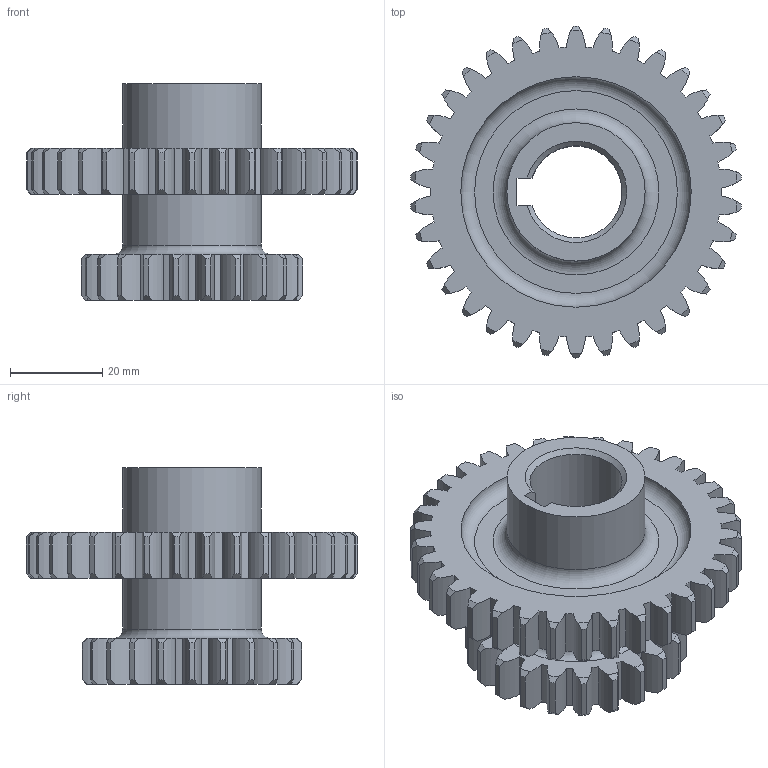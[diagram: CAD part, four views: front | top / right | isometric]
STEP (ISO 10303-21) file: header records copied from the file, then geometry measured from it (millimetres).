
FILE_DESCRIPTION(/* description */ (''),/* implementation_level */ '2;1');
FILE_NAME(/* name */ 'C:\Users\user\Desktop\381017E1004\381017E1004-스퍼기어.stp',/* time_stamp */ '2018-10-11T17:18:33+09:00',/* author */ ('user'),/* organization */ (''),/* preprocessor_version */ 'ST-DEVELOPER v16.1',/* originating_system */ 'Autodesk Inventor 2016',/* authorisation */ '');
FILE_SCHEMA (('AUTOMOTIVE_DESIGN { 1 0 10303 214 3 1 1 }'));
Length unit declared in the file: millimetre
Products named in the file (1): 123456789-스퍼기어
Bounding box: 71.79 x 72 x 47 mm (x, y, z)
Volume: 47767.7 mm3; surface area: 21421.9 mm2
Topology: 1 solids, 1 shells, 356 faces, 1050 edges, 705 vertices
Faces by surface type: cylinder 227, cone 114, plane 10, torus 5
Full cylindrical faces by diameter (mm): 30 x2
Entity records: 12396 total; most frequent: CARTESIAN_POINT 2782, DIRECTION 2105, ORIENTED_EDGE 2074, EDGE_CURVE 1037, AXIS2_PLACEMENT_3D 934, VERTEX_POINT 695, CIRCLE 577, EDGE_LOOP 370
